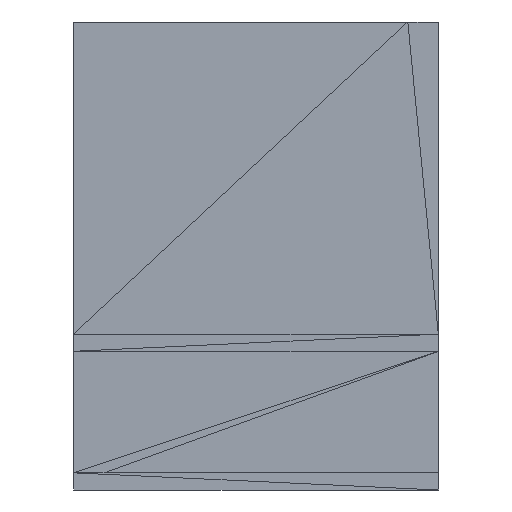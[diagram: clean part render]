
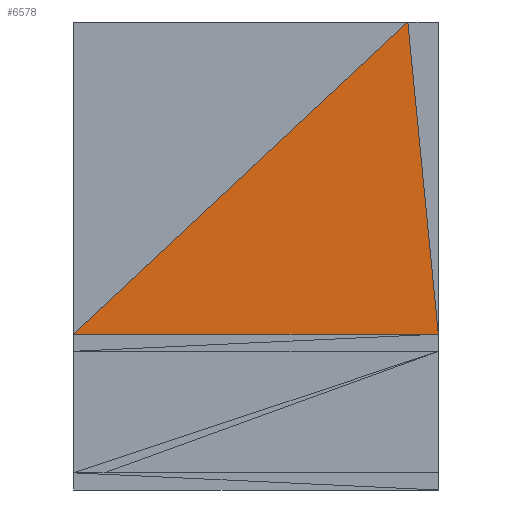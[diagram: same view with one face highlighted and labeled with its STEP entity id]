
A CAD part, front view. The second image highlights one B-rep face of the part: STEP entity #6578.
In plain terms, the highlighted planar face has unit normal (0, -1, 0).
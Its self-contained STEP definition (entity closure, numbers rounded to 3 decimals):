
#2102 = VERTEX_POINT('',#2103);
#2103 = CARTESIAN_POINT('',(-0.206,0.366,
    0.686));
#2117 = PLANE('',#2118);
#2118 = AXIS2_PLACEMENT_3D('',#2119,#2120,#2121);
#2119 = CARTESIAN_POINT('',(-0.207,0.366,
    0.694));
#2120 = DIRECTION('',(-0.,-1.,-0.));
#2121 = DIRECTION('',(0.,0.,-1.));
#2142 = PLANE('',#2143);
#2143 = AXIS2_PLACEMENT_3D('',#2144,#2145,#2146);
#2144 = CARTESIAN_POINT('',(-0.215,0.366,
    0.686));
#2145 = DIRECTION('',(-0.,-0.,-1.));
#2146 = DIRECTION('',(-1.,0.,0.));
#2555 = VERTEX_POINT('',#2556);
#2556 = CARTESIAN_POINT('',(-0.208,0.366,
    0.701));
#2917 = PLANE('',#2918);
#2918 = AXIS2_PLACEMENT_3D('',#2919,#2920,#2921);
#2919 = CARTESIAN_POINT('',(-0.218,0.366,
    0.695));
#2920 = DIRECTION('',(-0.,-1.,-0.));
#2921 = DIRECTION('',(0.,0.,-1.));
#4718 = VERTEX_POINT('',#4719);
#4719 = CARTESIAN_POINT('',(-0.223,0.366,
    0.686));
#6527 = EDGE_CURVE('',#2555,#2102,#6528,.T.);
#6528 = SURFACE_CURVE('',#6529,(#6533,#6540),.PCURVE_S1.);
#6529 = LINE('',#6530,#6531);
#6530 = CARTESIAN_POINT('',(-0.208,0.366,
    0.701));
#6531 = VECTOR('',#6532,1.);
#6532 = DIRECTION('',(0.097,0.,-0.995));
#6533 = PCURVE('',#2117,#6534);
#6534 = DEFINITIONAL_REPRESENTATION('',(#6535),#6539);
#6535 = LINE('',#6536,#6537);
#6536 = CARTESIAN_POINT('',(-0.007,-0.001));
#6537 = VECTOR('',#6538,1.);
#6538 = DIRECTION('',(0.995,0.097));
#6539 = ( GEOMETRIC_REPRESENTATION_CONTEXT(2) 
PARAMETRIC_REPRESENTATION_CONTEXT() REPRESENTATION_CONTEXT('2D SPACE',''
  ) );
#6540 = PCURVE('',#6541,#6546);
#6541 = PLANE('',#6542);
#6542 = AXIS2_PLACEMENT_3D('',#6543,#6544,#6545);
#6543 = CARTESIAN_POINT('',(-0.213,0.366,0.691
    ));
#6544 = DIRECTION('',(0.,-1.,0.));
#6545 = DIRECTION('',(0.,0.,-1.));
#6546 = DEFINITIONAL_REPRESENTATION('',(#6547),#6550);
#6547 = B_SPLINE_CURVE_WITH_KNOTS('',1,(#6548,#6549),.UNSPECIFIED.,.F.,
  .F.,(2,2),(0.,0.015),.PIECEWISE_BEZIER_KNOTS.);
#6548 = CARTESIAN_POINT('',(-0.01,0.005));
#6549 = CARTESIAN_POINT('',(0.005,0.007));
#6550 = ( GEOMETRIC_REPRESENTATION_CONTEXT(2) 
PARAMETRIC_REPRESENTATION_CONTEXT() REPRESENTATION_CONTEXT('2D SPACE',''
  ) );
#6557 = EDGE_CURVE('',#4718,#2555,#6558,.T.);
#6558 = SURFACE_CURVE('',#6559,(#6563,#6570),.PCURVE_S1.);
#6559 = LINE('',#6560,#6561);
#6560 = CARTESIAN_POINT('',(-0.223,0.366,
    0.686));
#6561 = VECTOR('',#6562,1.);
#6562 = DIRECTION('',(0.731,0.,0.682));
#6563 = PCURVE('',#2917,#6564);
#6564 = DEFINITIONAL_REPRESENTATION('',(#6565),#6569);
#6565 = LINE('',#6566,#6567);
#6566 = CARTESIAN_POINT('',(0.009,-0.006));
#6567 = VECTOR('',#6568,1.);
#6568 = DIRECTION('',(-0.682,0.731));
#6569 = ( GEOMETRIC_REPRESENTATION_CONTEXT(2) 
PARAMETRIC_REPRESENTATION_CONTEXT() REPRESENTATION_CONTEXT('2D SPACE',''
  ) );
#6570 = PCURVE('',#6541,#6571);
#6571 = DEFINITIONAL_REPRESENTATION('',(#6572),#6575);
#6572 = B_SPLINE_CURVE_WITH_KNOTS('',1,(#6573,#6574),.UNSPECIFIED.,.F.,
  .F.,(2,2),(0.,0.021),.PIECEWISE_BEZIER_KNOTS.);
#6573 = CARTESIAN_POINT('',(0.005,-0.01));
#6574 = CARTESIAN_POINT('',(-0.01,0.005));
#6575 = ( GEOMETRIC_REPRESENTATION_CONTEXT(2) 
PARAMETRIC_REPRESENTATION_CONTEXT() REPRESENTATION_CONTEXT('2D SPACE',''
  ) );
#6578 = ADVANCED_FACE('',(#6579),#6541,.T.);
#6579 = FACE_BOUND('',#6580,.T.);
#6580 = EDGE_LOOP('',(#6581,#6582,#6583));
#6581 = ORIENTED_EDGE('',*,*,#6527,.F.);
#6582 = ORIENTED_EDGE('',*,*,#6557,.F.);
#6583 = ORIENTED_EDGE('',*,*,#6584,.T.);
#6584 = EDGE_CURVE('',#4718,#2102,#6585,.T.);
#6585 = SURFACE_CURVE('',#6586,(#6590,#6597),.PCURVE_S1.);
#6586 = LINE('',#6587,#6588);
#6587 = CARTESIAN_POINT('',(-0.223,0.366,
    0.686));
#6588 = VECTOR('',#6589,1.);
#6589 = DIRECTION('',(1.,0.,0.));
#6590 = PCURVE('',#6541,#6591);
#6591 = DEFINITIONAL_REPRESENTATION('',(#6592),#6596);
#6592 = LINE('',#6593,#6594);
#6593 = CARTESIAN_POINT('',(0.005,-0.01));
#6594 = VECTOR('',#6595,1.);
#6595 = DIRECTION('',(0.,1.));
#6596 = ( GEOMETRIC_REPRESENTATION_CONTEXT(2) 
PARAMETRIC_REPRESENTATION_CONTEXT() REPRESENTATION_CONTEXT('2D SPACE',''
  ) );
#6597 = PCURVE('',#2142,#6598);
#6598 = DEFINITIONAL_REPRESENTATION('',(#6599),#6602);
#6599 = B_SPLINE_CURVE_WITH_KNOTS('',1,(#6600,#6601),.UNSPECIFIED.,.F.,
  .F.,(2,2),(0.,0.017),.PIECEWISE_BEZIER_KNOTS.);
#6600 = CARTESIAN_POINT('',(0.009,0.));
#6601 = CARTESIAN_POINT('',(-0.008,0.));
#6602 = ( GEOMETRIC_REPRESENTATION_CONTEXT(2) 
PARAMETRIC_REPRESENTATION_CONTEXT() REPRESENTATION_CONTEXT('2D SPACE',''
  ) );
